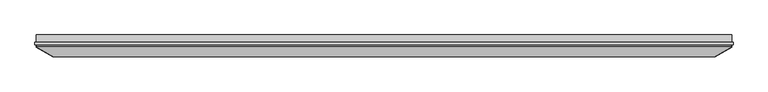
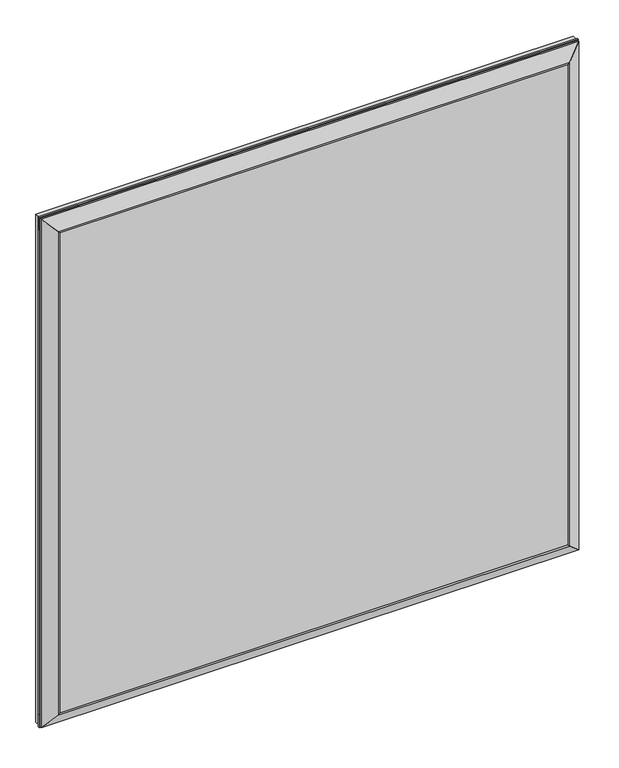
"""IFC4 building model written with IfcOpenShell, lengths in millimetres: proxy geometry, IMPRESS^TABLE 8_72sq X BASE-TOP PARTS SOLID."""

from ifc_helpers import new_model, si_unit, frame, origin, place, context, project, spatial, polyline, outline, extrude, faceted_brep, source, transform, mapped, element, save


def generic_models_549d6e20(model_context):
    return source(origin(), model_context, "Body", "SolidModel", [
        extrude(outline(polyline([(50.8, 0.0), (1778.0, 0.0), (1778.0, -38.1), (50.8, -38.1), (50.8, 0.0)])), frame((0.0, 0.0, -1778.0), z_axis=(0.0, 0.0, 1.0), x_axis=(1.0, 0.0, 0.0)), (0.0, 0.0, 1.0), 1727.2),
        extrude(outline(polyline([(-3.175, 0.0), (1831.975, 0.0), (1831.975, -6.35), (-3.175, -6.35), (-3.175, 0.0)])), frame((0.0, 0.0, -1831.975), z_axis=(0.0, 0.0, 1.0), x_axis=(1.0, 0.0, 0.0)), (0.0, 0.0, 1.0), 44.45),
        extrude(outline(polyline([(1787.525, 0.0), (1831.975, 0.0), (1831.975, -6.35), (1787.525, -6.35), (1787.525, 0.0)])), frame((0.0, 0.0, -1812.925), z_axis=(0.0, 0.0, 1.0), x_axis=(1.0, 0.0, 0.0)), (0.0, 0.0, 1.0), 1797.05),
        faceted_brep([(0.0, 0.0, -1828.8), (1828.8, 0.0, -1828.8), (1828.8, -12.7, -1828.8), (0.0, -12.7, -1828.8), (1778.0, 0.0, -1778.0), (1778.0, -38.1, -1778.0), (1784.8059095, -38.1, -1784.8059095), (50.8, 0.0, -1778.0), (43.9940905, -38.1, -1784.8059095), (50.8, -38.1, -1778.0)], [[[0, 1, 2, 3]], [[2, 1, 4, 5, 6]], [[1, 0, 7, 4]], [[2, 6, 8, 3]], [[8, 6, 5, 9]], [[0, 3, 8, 9, 7]], [[4, 7, 9, 5]]]),
        extrude(outline(polyline([(1831.975, 0.0), (1831.975, -6.35), (-3.175, -6.35), (-3.175, 0.0), (1831.975, 0.0)])), frame((0.0, 0.0, -41.275), z_axis=(0.0, 0.0, 1.0), x_axis=(1.0, 0.0, 0.0)), (0.0, 0.0, 1.0), 44.45),
        faceted_brep([(1828.8, 0.0, -1828.8), (1828.8, 0.0, 0.0), (1828.8, -12.7, 0.0), (1828.8, -12.7, -1828.8), (1778.0, 0.0, -50.8), (1778.0, -38.1, -50.8), (1784.8059095, -38.1, -43.9940905), (1778.0, 0.0, -1778.0), (1784.8059095, -38.1, -1784.8059095), (1778.0, -38.1, -1778.0)], [[[0, 1, 2, 3]], [[2, 1, 4, 5, 6]], [[1, 0, 7, 4]], [[2, 6, 8, 3]], [[8, 6, 5, 9]], [[0, 3, 8, 9, 7]], [[4, 7, 9, 5]]]),
        faceted_brep([(0.0, 0.0, 0.0), (0.0, 0.0, -1828.8), (0.0, -12.7, -1828.8), (0.0, -12.7, 0.0), (50.8, 0.0, -1778.0), (50.8, -38.1, -1778.0), (43.9940905, -38.1, -1784.8059095), (50.8, 0.0, -50.8), (43.9940905, -38.1, -43.9940905), (50.8, -38.1, -50.8)], [[[0, 1, 2, 3]], [[2, 1, 4, 5, 6]], [[1, 0, 7, 4]], [[2, 6, 8, 3]], [[8, 6, 5, 9]], [[0, 3, 8, 9, 7]], [[4, 7, 9, 5]]]),
        extrude(outline(polyline([(-3.175, 0.0), (41.275, 0.0), (41.275, -6.35), (-3.175, -6.35), (-3.175, 0.0)])), frame((0.0, 0.0, -1812.925), z_axis=(0.0, 0.0, 1.0), x_axis=(1.0, 0.0, 0.0)), (0.0, 0.0, 1.0), 1797.05),
        extrude(outline(polyline([(1828.8, 0.0), (0.0, 0.0), (0.0, 19.05), (1828.8, 19.05), (1828.8, 0.0)])), frame((0.0, 0.0, -1828.8), z_axis=(0.0, 0.0, 1.0), x_axis=(1.0, 0.0, 0.0)), (0.0, 0.0, 1.0), 1828.8),
        faceted_brep([(1828.8, 0.0, 0.0), (0.0, 0.0, 0.0), (0.0, -12.7, 0.0), (1828.8, -12.7, 0.0), (50.8, 0.0, -50.8), (50.8, -38.1, -50.8), (43.9940905, -38.1, -43.9940905), (1778.0, 0.0, -50.8), (1784.8059095, -38.1, -43.9940905), (1778.0, -38.1, -50.8)], [[[0, 1, 2, 3]], [[2, 1, 4, 5, 6]], [[1, 0, 7, 4]], [[2, 6, 8, 3]], [[0, 3, 8, 9, 7]], [[4, 7, 9, 5]], [[8, 6, 5, 9]]]),
    ])


if __name__ == "__main__":
    model = new_model("IFC4")
    model_context = context("Model", 3, world=origin())
    ifc_project = project(units=[si_unit("LENGTHUNIT", "METRE", prefix="MILLI")], contexts=[model_context])
    site = spatial("IfcSite", under=ifc_project)
    building = spatial("IfcBuilding", under=site)
    placement = place(None, origin())
    generic_models_shape = generic_models_549d6e20(model_context)
    element("IfcBuildingElementProxy", 1, Name="IMPRESS^TABLE 8_72sq X BASE-TOP PARTS SOLID", ObjectType="IMPRESS^TABLE 8_72sq X BASE-TOP PARTS SOLID", at=placement, inside=building, context=model_context, shape_type="MappedRepresentation", body=[
        mapped(generic_models_shape, transform((0.0, 0.0, 0.0), x_axis=(1.0, 0.0, 0.0), y_axis=(0.0, 1.0, 0.0), z_axis=(0.0, 0.0, 1.0))),
    ])
    save(model, "model.ifc")
